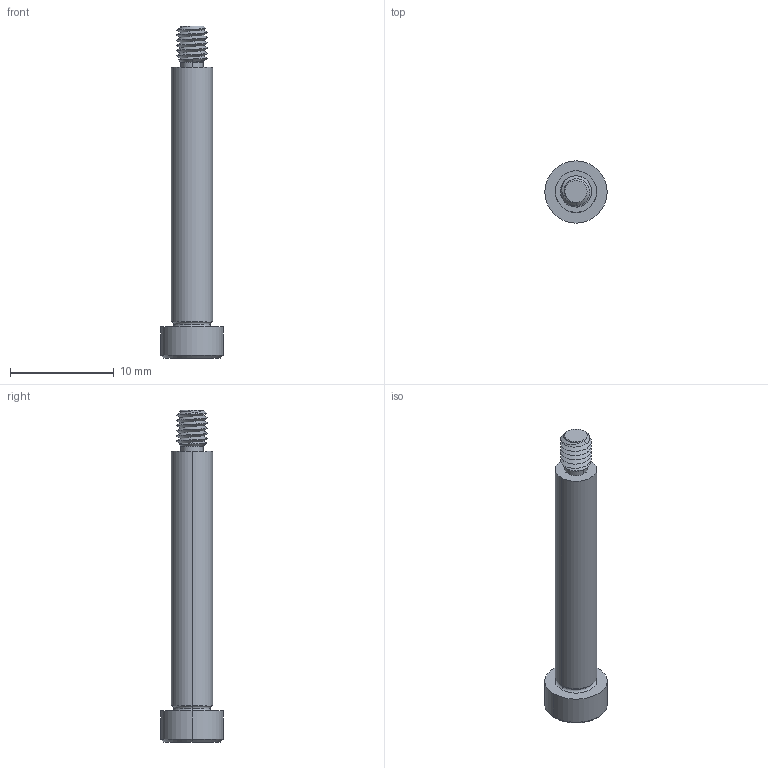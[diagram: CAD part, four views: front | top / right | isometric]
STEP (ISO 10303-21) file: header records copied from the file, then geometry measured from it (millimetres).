
FILE_DESCRIPTION (( 'STEP AP203' ), '1' );
FILE_NAME ('P0130.040-025-B2.step', '2021-11-09T21:06:27', ( '' ), ( '' ), 'SwSTEP 2.0', 'SolidWorks 2019', '' );
FILE_SCHEMA (( 'CONFIG_CONTROL_DESIGN' ));
Length unit declared in the file: millimetre
Products named in the file (1): P0130.040-025-B2
Bounding box: 6 x 6 x 32 mm (x, y, z)
Volume: 409.4 mm3; surface area: 498.5 mm2
Topology: 1 solids, 1 shells, 54 faces, 124 edges, 73 vertices
Faces by surface type: cylinder 18, plane 16, cone 14, torus 4, bspline 2
Entity records: 2218 total; most frequent: CARTESIAN_POINT 1016, ORIENTED_EDGE 244, DIRECTION 229, EDGE_CURVE 122, AXIS2_PLACEMENT_3D 93, VERTEX_POINT 73, EDGE_LOOP 57, ADVANCED_FACE 54
